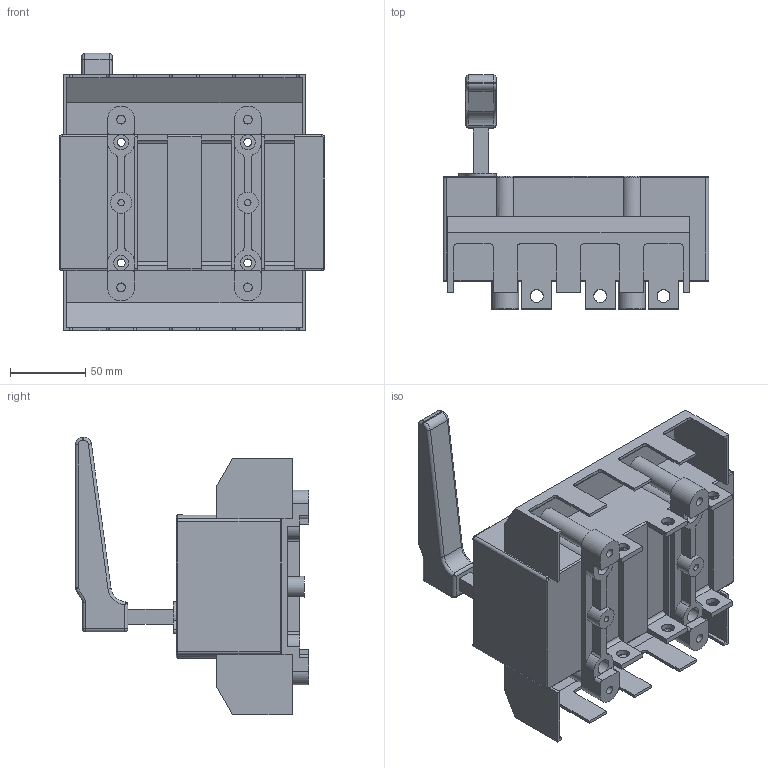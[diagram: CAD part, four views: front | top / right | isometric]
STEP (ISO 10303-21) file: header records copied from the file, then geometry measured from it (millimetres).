
FILE_DESCRIPTION(/* description */ (''),/* implementation_level */ '2;1');
FILE_NAME(/* name */ 'RA250 P3 C-R z oslona zaciskow.stp',/* time_stamp */ '2021-08-18T08:31:26+02:00',/* author */ (''),/* organization */ (''),/* preprocessor_version */ 'ST-DEVELOPER v18.1',/* originating_system */ 'SIEMENS PLM Software NX 1965',/* authorisation */ '');
FILE_SCHEMA (('AUTOMOTIVE_DESIGN { 1 0 10303 214 3 1 1 1 }'));
Length unit declared in the file: millimetre
Products named in the file (1): RA250 P3 C-R z oslona zaciskow
Bounding box: 176 x 155 x 183.9 mm (x, y, z)
Volume: 1262371.7 mm3; surface area: 167076.4 mm2
Topology: 1 solids, 1 shells, 348 faces, 979 edges, 634 vertices
Faces by surface type: plane 174, cylinder 148, torus 12, bspline 8, sphere 6
Full cylindrical faces by diameter (mm): 4.3 x2, 5.3 x4, 5.8 x4, 8.5 x6, 10 x12, 13 x4, 14 x2
Entity records: 11288 total; most frequent: CARTESIAN_POINT 2284, DIRECTION 1901, ORIENTED_EDGE 1826, EDGE_CURVE 913, AXIS2_PLACEMENT_3D 669, VERTEX_POINT 600, LINE 563, VECTOR 563
